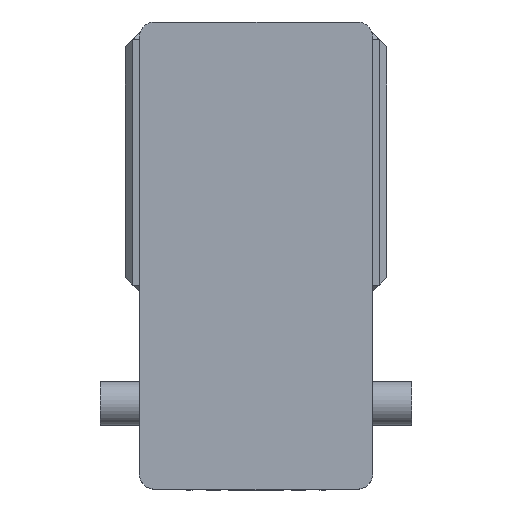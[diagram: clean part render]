
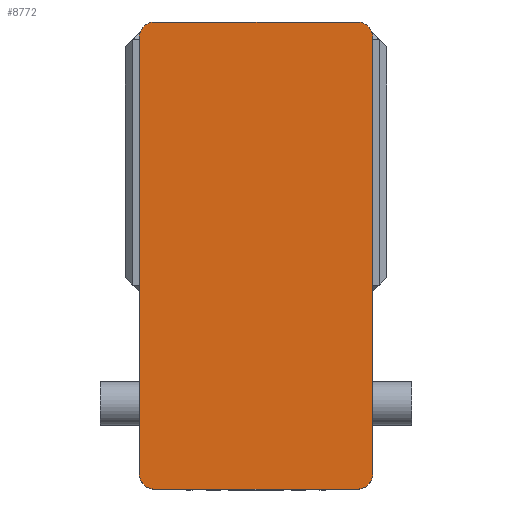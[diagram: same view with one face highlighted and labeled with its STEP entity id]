
A CAD part, left-side view. The second image highlights one B-rep face of the part: STEP entity #8772.
In plain terms, the highlighted planar face has unit normal (-1, 0, 0) as drawn and (0, 0, 1) by its records, which use the part's own axes.
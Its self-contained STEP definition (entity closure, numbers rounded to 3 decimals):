
#148 = VECTOR ( 'NONE', #1860, 1000. ) ;
#159 = DIRECTION ( 'NONE',  ( -1., 0., 0. ) ) ;
#199 = CARTESIAN_POINT ( 'NONE',  ( -75., 150., 105. ) ) ;
#333 = CARTESIAN_POINT ( 'NONE',  ( 75., 150., 105. ) ) ;
#352 = DIRECTION ( 'NONE',  ( 0., 1., 0. ) ) ;
#432 = CARTESIAN_POINT ( 'NONE',  ( -65., 150., 105. ) ) ;
#824 = DIRECTION ( 'NONE',  ( 1., 0., 0. ) ) ;
#837 = DIRECTION ( 'NONE',  ( 1., 0., 0. ) ) ;
#839 = DIRECTION ( 'NONE',  ( 0., 0., 1. ) ) ;
#868 = CARTESIAN_POINT ( 'NONE',  ( 65., 140., 105. ) ) ;
#1240 = VECTOR ( 'NONE', #159, 1000. ) ;
#1278 = EDGE_CURVE ( 'NONE', #4289, #17471, #2139, .T. ) ;
#1397 = CIRCLE ( 'NONE', #15908, 10. ) ;
#1426 = LINE ( 'NONE', #1832, #148 ) ;
#1530 = EDGE_CURVE ( 'NONE', #8584, #10317, #1397, .T. ) ;
#1728 = LINE ( 'NONE', #199, #1240 ) ;
#1832 = CARTESIAN_POINT ( 'NONE',  ( -75., -150., 105. ) ) ;
#1860 = DIRECTION ( 'NONE',  ( 1., 0., 0. ) ) ;
#1998 = VECTOR ( 'NONE', #18453, 1000. ) ;
#2057 = LINE ( 'NONE', #18474, #1998 ) ;
#2139 = CIRCLE ( 'NONE', #16237, 10. ) ;
#2247 = VECTOR ( 'NONE', #352, 1000. ) ;
#2536 = EDGE_LOOP ( 'NONE', ( #17374, #16411, #16123, #11849, #18825, #12368, #12125, #5088 ) ) ;
#2614 = VERTEX_POINT ( 'NONE', #6247 ) ;
#3240 = EDGE_CURVE ( 'NONE', #2614, #6752, #5019, .T. ) ;
#3328 = EDGE_CURVE ( 'NONE', #13980, #2614, #4034, .T. ) ;
#3333 = EDGE_CURVE ( 'NONE', #6752, #4289, #1728, .T. ) ;
#3365 = DIRECTION ( 'NONE',  ( 0., 0., 1. ) ) ;
#3889 = AXIS2_PLACEMENT_3D ( 'NONE', #4335, #3365, #837 ) ;
#4034 = LINE ( 'NONE', #333, #2247 ) ;
#4289 = VERTEX_POINT ( 'NONE', #432 ) ;
#4335 = CARTESIAN_POINT ( 'NONE',  ( 0., 0., 105. ) ) ;
#4426 = CIRCLE ( 'NONE', #11191, 10. ) ;
#5019 = CIRCLE ( 'NONE', #13705, 10. ) ;
#5088 = ORIENTED_EDGE ( 'NONE', *, *, #1530, .T. ) ;
#5167 = CARTESIAN_POINT ( 'NONE',  ( -65., -150., 105. ) ) ;
#5565 = DIRECTION ( 'NONE',  ( 1., 0., 0. ) ) ;
#5584 = EDGE_CURVE ( 'NONE', #7643, #13980, #4426, .T. ) ;
#5585 = DIRECTION ( 'NONE',  ( 0., 0., 1. ) ) ;
#5601 = CARTESIAN_POINT ( 'NONE',  ( 65., -140., 105. ) ) ;
#5970 = PLANE ( 'NONE',  #3889 ) ;
#6107 = EDGE_CURVE ( 'NONE', #10317, #7643, #1426, .T. ) ;
#6247 = CARTESIAN_POINT ( 'NONE',  ( 75., 140., 105. ) ) ;
#6752 = VERTEX_POINT ( 'NONE', #19055 ) ;
#7113 = CARTESIAN_POINT ( 'NONE',  ( 65., -150., 105. ) ) ;
#7643 = VERTEX_POINT ( 'NONE', #7113 ) ;
#8584 = VERTEX_POINT ( 'NONE', #12419 ) ;
#8772 = ADVANCED_FACE ( 'NONE', ( #19231 ), #5970, .T. ) ;
#10317 = VERTEX_POINT ( 'NONE', #5167 ) ;
#11191 = AXIS2_PLACEMENT_3D ( 'NONE', #5601, #5585, #5565 ) ;
#11849 = ORIENTED_EDGE ( 'NONE', *, *, #3240, .T. ) ;
#12125 = ORIENTED_EDGE ( 'NONE', *, *, #19744, .T. ) ;
#12368 = ORIENTED_EDGE ( 'NONE', *, *, #1278, .T. ) ;
#12419 = CARTESIAN_POINT ( 'NONE',  ( -75., -140., 105. ) ) ;
#13705 = AXIS2_PLACEMENT_3D ( 'NONE', #868, #839, #824 ) ;
#13794 = CARTESIAN_POINT ( 'NONE',  ( 75., -140., 105. ) ) ;
#13980 = VERTEX_POINT ( 'NONE', #13794 ) ;
#15908 = AXIS2_PLACEMENT_3D ( 'NONE', #18036, #18004, #17991 ) ;
#16123 = ORIENTED_EDGE ( 'NONE', *, *, #3328, .T. ) ;
#16237 = AXIS2_PLACEMENT_3D ( 'NONE', #17015, #17667, #17692 ) ;
#16411 = ORIENTED_EDGE ( 'NONE', *, *, #5584, .T. ) ;
#17015 = CARTESIAN_POINT ( 'NONE',  ( -65., 140., 105. ) ) ;
#17374 = ORIENTED_EDGE ( 'NONE', *, *, #6107, .T. ) ;
#17471 = VERTEX_POINT ( 'NONE', #18958 ) ;
#17667 = DIRECTION ( 'NONE',  ( 0., 0., 1. ) ) ;
#17692 = DIRECTION ( 'NONE',  ( 1., 0., 0. ) ) ;
#17991 = DIRECTION ( 'NONE',  ( 1., 0., 0. ) ) ;
#18004 = DIRECTION ( 'NONE',  ( 0., 0., 1. ) ) ;
#18036 = CARTESIAN_POINT ( 'NONE',  ( -65., -140., 105. ) ) ;
#18453 = DIRECTION ( 'NONE',  ( 0., -1., 0. ) ) ;
#18474 = CARTESIAN_POINT ( 'NONE',  ( -75., 150., 105. ) ) ;
#18825 = ORIENTED_EDGE ( 'NONE', *, *, #3333, .T. ) ;
#18958 = CARTESIAN_POINT ( 'NONE',  ( -75., 140., 105. ) ) ;
#19055 = CARTESIAN_POINT ( 'NONE',  ( 65., 150., 105. ) ) ;
#19231 = FACE_OUTER_BOUND ( 'NONE', #2536, .T. ) ;
#19744 = EDGE_CURVE ( 'NONE', #17471, #8584, #2057, .T. ) ;
